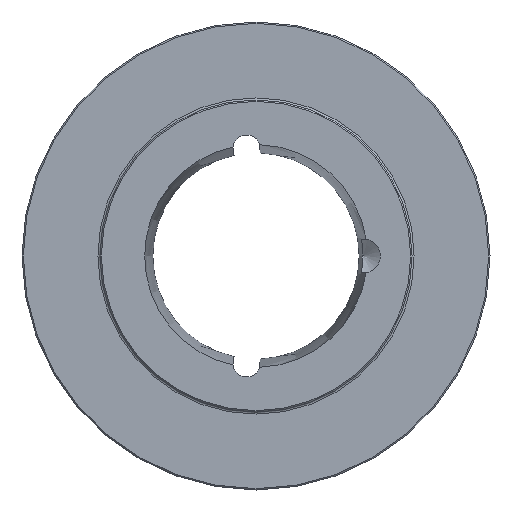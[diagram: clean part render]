
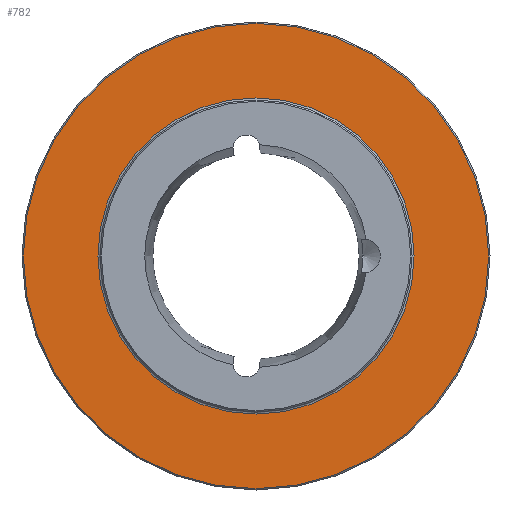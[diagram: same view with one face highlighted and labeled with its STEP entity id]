
A CAD part, left-side view. The second image highlights one B-rep face of the part: STEP entity #782.
In plain terms, the highlighted planar face has unit normal (-1, 0, 0).
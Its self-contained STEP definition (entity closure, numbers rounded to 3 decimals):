
#76=FACE_BOUND('',#260,.T.);
#108=PLANE('',#898);
#156=FACE_OUTER_BOUND('',#259,.T.);
#259=EDGE_LOOP('',(#653));
#260=EDGE_LOOP('',(#654));
#361=CIRCLE('',#897,60.8);
#362=CIRCLE('',#899,89.5);
#442=VERTEX_POINT('',#1449);
#443=VERTEX_POINT('',#1452);
#522=EDGE_CURVE('',#442,#442,#361,.T.);
#523=EDGE_CURVE('',#443,#443,#362,.T.);
#653=ORIENTED_EDGE('',*,*,#523,.F.);
#654=ORIENTED_EDGE('',*,*,#522,.T.);
#782=ADVANCED_FACE('',(#156,#76),#108,.T.);
#897=AXIS2_PLACEMENT_3D('',#1450,#1125,#1126);
#898=AXIS2_PLACEMENT_3D('',#1451,#1127,#1128);
#899=AXIS2_PLACEMENT_3D('',#1453,#1129,#1130);
#1125=DIRECTION('center_axis',(1.,0.,0.));
#1126=DIRECTION('ref_axis',(0.,0.,-1.));
#1127=DIRECTION('center_axis',(-1.,0.,0.));
#1128=DIRECTION('ref_axis',(0.,0.,1.));
#1129=DIRECTION('center_axis',(1.,0.,0.));
#1130=DIRECTION('ref_axis',(0.,0.,-1.));
#1449=CARTESIAN_POINT('',(3.487,136.228,0.));
#1450=CARTESIAN_POINT('Origin',(3.487,75.428,0.));
#1451=CARTESIAN_POINT('Origin',(3.487,164.928,0.));
#1452=CARTESIAN_POINT('',(3.487,164.928,0.));
#1453=CARTESIAN_POINT('Origin',(3.487,75.428,0.));
